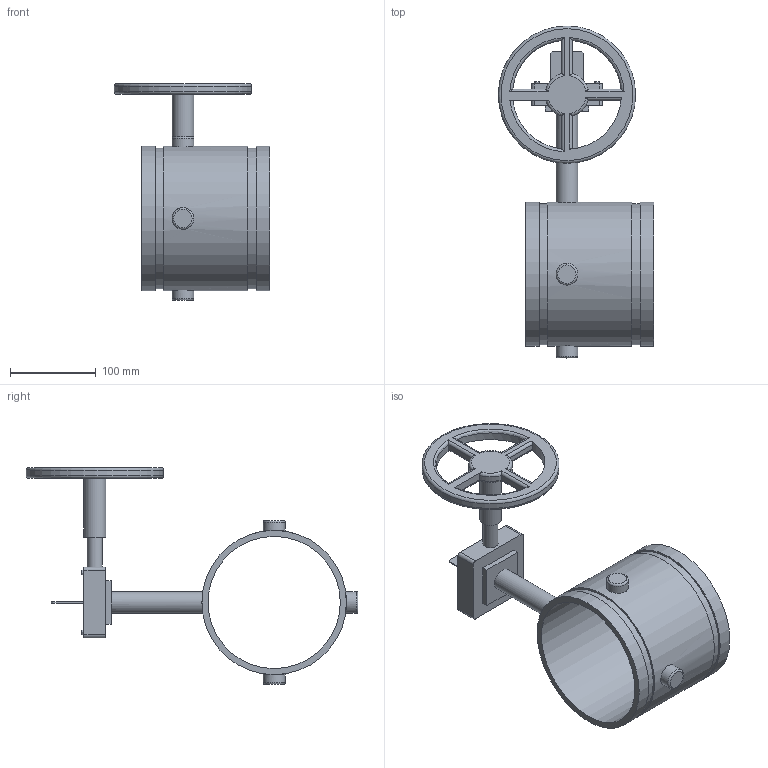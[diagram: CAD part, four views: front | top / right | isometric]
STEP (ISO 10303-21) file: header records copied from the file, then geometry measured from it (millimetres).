
FILE_DESCRIPTION(/* description */ ('VIC FIRELOCK BUTTERFLY VALVE SERIES 707-C W/ WEATHERPROOF ACTUATOR FOR 300 PSI','CAx-IF Rec.Pracs.---Representation and Presentation of Product Manufacturing Information (PMI)---4.0---2014-10-13'),/* implementation_level */ '2;1');
FILE_NAME(/* name */ 'C:\Users\Vjadhav\AppData\Roaming\Autodesk\ApplicationPlugins\Back Up\Victaulic_FP-FireLock_Valve Butterfly_Series 707C (OGS)-Closed\Victaulic_FP-FireLock_Valve Butterfly_Series 707C (OGS)-Closed_6 (150).stp',/* time_stamp */ '2020-07-20T15:15:05+06:00',/* author */ ('kkamble'),/* organization */ ('Victaulic'),/* preprocessor_version */ 'ST-DEVELOPER v17.2',/* originating_system */ 'Autodesk Inventor 2019',/* authorisation */ '');
FILE_SCHEMA (('AP242_MANAGED_MODEL_BASED_3D_ENGINEERING_MIM_LF { 1 0 10303 442 1 1 4 }'));
Length unit declared in the file: inch
Products named in the file (1): 707C-06.0
Bounding box: 181.1 x 386.59 x 252.73 mm (x, y, z)
Volume: 963523.7 mm3; surface area: 242258.9 mm2
Topology: 1 solids, 1 shells, 122 faces, 312 edges, 209 vertices
Faces by surface type: plane 66, cylinder 40, torus 16
Full cylindrical faces by diameter (mm): 17.78 x1, 25.4 x5, 154.051 x1, 160.02 x1, 163.957 x2, 168.275 x3
Entity records: 4445 total; most frequent: CARTESIAN_POINT 1165, DIRECTION 637, ORIENTED_EDGE 624, EDGE_CURVE 312, AXIS2_PLACEMENT_3D 229, VERTEX_POINT 209, LINE 179, VECTOR 179
